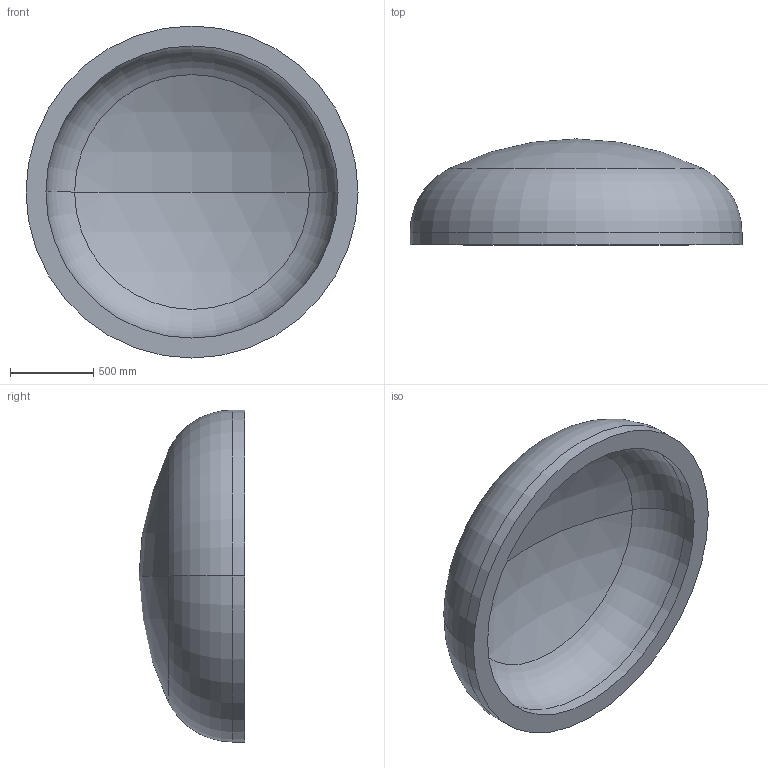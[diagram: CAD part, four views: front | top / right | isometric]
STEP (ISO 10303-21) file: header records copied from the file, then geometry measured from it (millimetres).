
FILE_DESCRIPTION (( 'STEP AP203' ), '1' );
FILE_NAME ('DIN 28013 Korbbogenform_-_Boden DIN 28013 - 2000 x 75 - I - s=120.step', '2016-07-01T14:14:23', ( '' ), ( '' ), 'SwSTEP 2.0', 'SolidWorks 2013', '' );
FILE_SCHEMA (( 'CONFIG_CONTROL_DESIGN' ));
Length unit declared in the file: millimetre
Products named in the file (1): DIN 28013 Korbbogenform_-_Boden DIN 28013 - 2000 x 75 - I - s=120
Bounding box: 2000 x 637.76 x 2000 mm (x, y, z)
Volume: 537487161.3 mm3; surface area: 9697019.6 mm2
Topology: 1 solids, 1 shells, 13 faces, 24 edges, 14 vertices
Faces by surface type: torus 4, cylinder 4, sphere 4, plane 1
Entity records: 407 total; most frequent: DIRECTION 72, CARTESIAN_POINT 52, ORIENTED_EDGE 48, AXIS2_PLACEMENT_3D 34, EDGE_CURVE 24, CIRCLE 20, VERTEX_POINT 14, EDGE_LOOP 14
